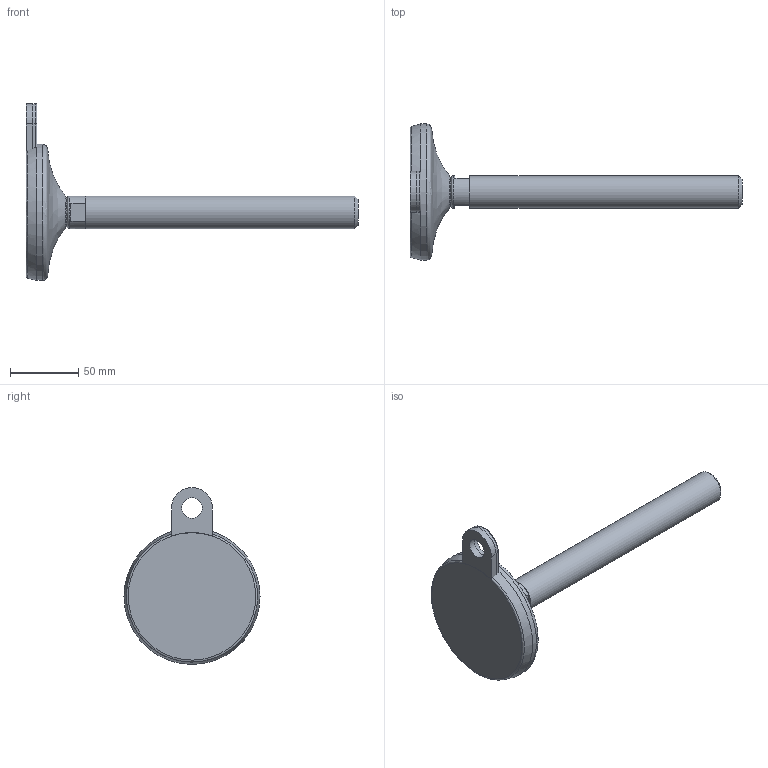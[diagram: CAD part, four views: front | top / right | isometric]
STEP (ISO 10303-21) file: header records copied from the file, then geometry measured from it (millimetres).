
FILE_DESCRIPTION(('STEP AP203'),'2;1');
FILE_NAME('25158-F.stp','2014-07-21T15:35:06',(''),(''),'2008.1.107','THINKDESIGN','');
FILE_SCHEMA(('CONFIG_CONTROL_DESIGN'));
Length unit declared in the file: millimetre
Bounding box: 244 x 100 x 130 mm (x, y, z)
Volume: 251681.9 mm3; surface area: 59154 mm2
Topology: 7 solids, 7 shells, 49 faces, 114 edges, 79 vertices
Faces by surface type: plane 24, cylinder 16, bspline 9
Full cylindrical faces by diameter (mm): 15 x3, 24 x2, 100 x1
Entity records: 2760 total; most frequent: CARTESIAN_POINT 1513, DIRECTION 248, ORIENTED_EDGE 228, EDGE_CURVE 114, AXIS2_PLACEMENT_3D 102, VERTEX_POINT 79, CIRCLE 62, EDGE_LOOP 55
